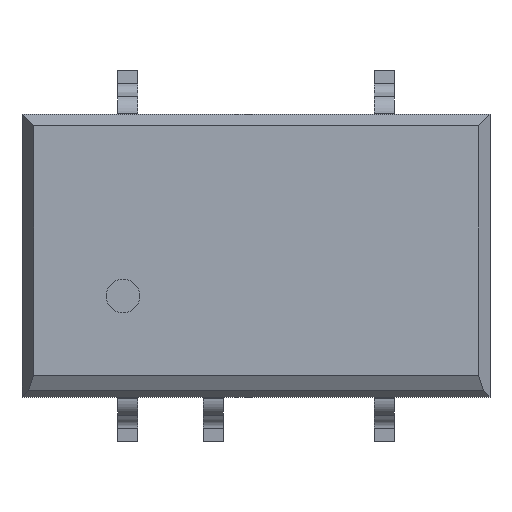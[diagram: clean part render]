
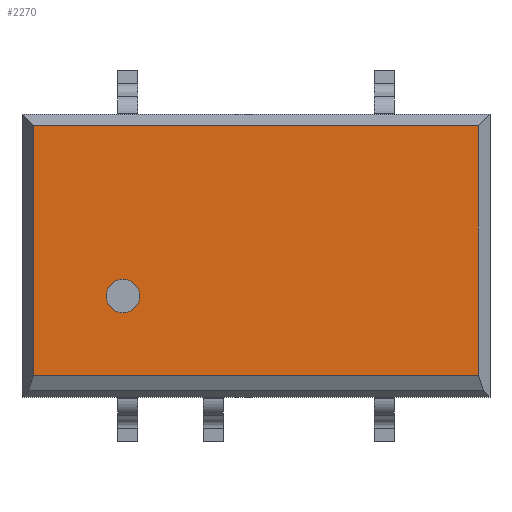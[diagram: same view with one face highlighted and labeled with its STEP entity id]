
A CAD part, top view. The second image highlights one B-rep face of the part: STEP entity #2270.
In plain terms, the highlighted planar face has unit normal (0, 0, 1).
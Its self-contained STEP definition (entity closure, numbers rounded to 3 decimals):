
#69=CIRCLE('',#2442,0.5);
#107=FACE_BOUND('',#358,.T.);
#218=FACE_OUTER_BOUND('',#357,.T.);
#357=EDGE_LOOP('',(#1976,#1977,#1978,#1979));
#358=EDGE_LOOP('',(#1980));
#605=LINE('',#3633,#873);
#609=LINE('',#3642,#877);
#612=LINE('',#3648,#880);
#613=LINE('',#3649,#881);
#873=VECTOR('',#2985,13.207);
#877=VECTOR('',#2993,7.407);
#880=VECTOR('',#2998,7.407);
#881=VECTOR('',#2999,13.207);
#1093=VERTEX_POINT('',#3626);
#1096=VERTEX_POINT('',#3631);
#1099=VERTEX_POINT('',#3641);
#1101=VERTEX_POINT('',#3647);
#1102=VERTEX_POINT('',#3650);
#1391=EDGE_CURVE('',#1096,#1093,#605,.T.);
#1395=EDGE_CURVE('',#1093,#1099,#609,.T.);
#1398=EDGE_CURVE('',#1101,#1096,#612,.T.);
#1399=EDGE_CURVE('',#1099,#1101,#613,.T.);
#1400=EDGE_CURVE('',#1102,#1102,#69,.T.);
#1976=ORIENTED_EDGE('',*,*,#1391,.F.);
#1977=ORIENTED_EDGE('',*,*,#1398,.F.);
#1978=ORIENTED_EDGE('',*,*,#1399,.F.);
#1979=ORIENTED_EDGE('',*,*,#1395,.F.);
#1980=ORIENTED_EDGE('',*,*,#1400,.T.);
#2146=PLANE('',#2441);
#2270=ADVANCED_FACE('',(#218,#107),#2146,.T.);
#2441=AXIS2_PLACEMENT_3D('',#3646,#2996,#2997);
#2442=AXIS2_PLACEMENT_3D('',#3651,#3000,#3001);
#2985=DIRECTION('',(-1.,0.,0.));
#2993=DIRECTION('',(0.,1.,0.));
#2996=DIRECTION('center_axis',(0.,0.,1.));
#2997=DIRECTION('ref_axis',(1.,0.,0.));
#2998=DIRECTION('',(0.,-1.,0.));
#2999=DIRECTION('',(1.,0.,0.));
#3000=DIRECTION('center_axis',(0.,0.,-1.));
#3001=DIRECTION('ref_axis',(-1.,0.,0.));
#3626=CARTESIAN_POINT('',(-6.604,-3.554,5.25));
#3631=CARTESIAN_POINT('',(6.604,-3.554,5.25));
#3633=CARTESIAN_POINT('',(1.738,-3.554,5.25));
#3641=CARTESIAN_POINT('',(-6.604,3.854,5.25));
#3642=CARTESIAN_POINT('',(-6.604,-2.1,5.25));
#3646=CARTESIAN_POINT('Origin',(0.,0.,5.25));
#3647=CARTESIAN_POINT('',(6.604,3.854,5.25));
#3648=CARTESIAN_POINT('',(6.604,2.1,5.25));
#3649=CARTESIAN_POINT('',(-3.475,3.854,5.25));
#3650=CARTESIAN_POINT('',(-3.45,-1.2,5.25));
#3651=CARTESIAN_POINT('Origin',(-3.95,-1.2,5.25));
